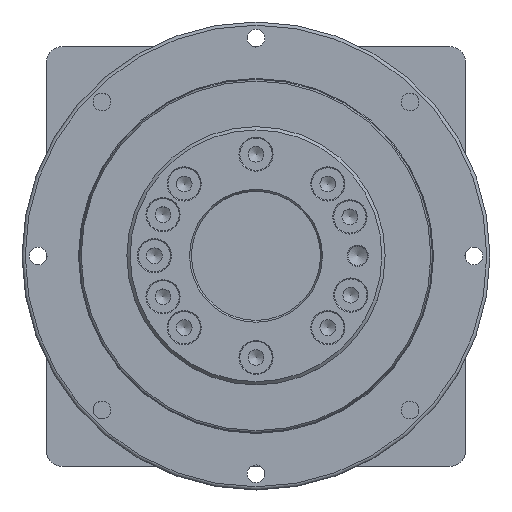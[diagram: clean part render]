
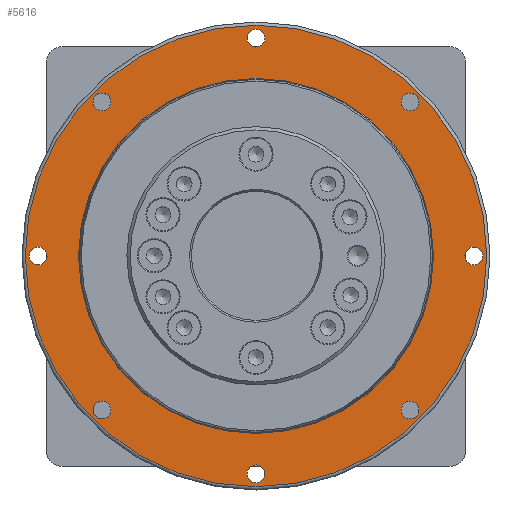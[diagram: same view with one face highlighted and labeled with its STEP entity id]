
A CAD part, top view. The second image highlights one B-rep face of the part: STEP entity #5616.
In plain terms, the highlighted planar face has unit normal (0, 0, 1).
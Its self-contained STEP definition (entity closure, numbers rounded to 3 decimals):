
#2751=CARTESIAN_POINT('',(67.5,-2.75,8.0));
#2752=VERTEX_POINT('',#2751);
#2753=CARTESIAN_POINT('',(67.5,0.,8.0));
#2754=DIRECTION('',(0.0,0.0,-1.0));
#2755=DIRECTION('',(0.0,1.0,0.0));
#2756=AXIS2_PLACEMENT_3D('',#2753,#2754,#2755);
#2757=CIRCLE('',#2756,2.75);
#2758=EDGE_CURVE('',#2752,#2752,#2757,.T.);
#2779=CARTESIAN_POINT('',(2.75,67.5,8.0));
#2780=VERTEX_POINT('',#2779);
#2781=CARTESIAN_POINT('',(0.0,67.5,8.0));
#2782=DIRECTION('',(0.0,0.0,-1.0));
#2783=DIRECTION('',(-1.0,0.0,0.0));
#2784=AXIS2_PLACEMENT_3D('',#2781,#2782,#2783);
#2785=CIRCLE('',#2784,2.75);
#2786=EDGE_CURVE('',#2780,#2780,#2785,.T.);
#2807=CARTESIAN_POINT('',(-2.75,-67.5,8.0));
#2808=VERTEX_POINT('',#2807);
#2809=CARTESIAN_POINT('',(0.,-67.5,8.0));
#2810=DIRECTION('',(0.0,0.0,-1.0));
#2811=DIRECTION('',(1.0,0.0,0.0));
#2812=AXIS2_PLACEMENT_3D('',#2809,#2810,#2811);
#2813=CIRCLE('',#2812,2.75);
#2814=EDGE_CURVE('',#2808,#2808,#2813,.T.);
#2835=CARTESIAN_POINT('',(-45.785,49.674,8.0));
#2836=VERTEX_POINT('',#2835);
#2837=CARTESIAN_POINT('',(-47.73,47.73,8.0));
#2838=DIRECTION('',(0.0,0.0,-1.0));
#2839=DIRECTION('',(-0.707,-0.707,0.0));
#2840=AXIS2_PLACEMENT_3D('',#2837,#2838,#2839);
#2841=CIRCLE('',#2840,2.75);
#2842=EDGE_CURVE('',#2836,#2836,#2841,.T.);
#2863=CARTESIAN_POINT('',(45.785,-49.674,8.0));
#2864=VERTEX_POINT('',#2863);
#2865=CARTESIAN_POINT('',(47.73,-47.73,8.0));
#2866=DIRECTION('',(0.0,0.0,-1.0));
#2867=DIRECTION('',(0.707,0.707,0.0));
#2868=AXIS2_PLACEMENT_3D('',#2865,#2866,#2867);
#2869=CIRCLE('',#2868,2.75);
#2870=EDGE_CURVE('',#2864,#2864,#2869,.T.);
#2891=CARTESIAN_POINT('',(49.674,45.785,8.0));
#2892=VERTEX_POINT('',#2891);
#2893=CARTESIAN_POINT('',(47.73,47.73,8.0));
#2894=DIRECTION('',(0.0,0.0,-1.0));
#2895=DIRECTION('',(-0.707,0.707,0.0));
#2896=AXIS2_PLACEMENT_3D('',#2893,#2894,#2895);
#2897=CIRCLE('',#2896,2.75);
#2898=EDGE_CURVE('',#2892,#2892,#2897,.T.);
#2981=CARTESIAN_POINT('',(-67.5,2.75,8.0));
#2982=VERTEX_POINT('',#2981);
#2983=CARTESIAN_POINT('',(-67.5,0.0,8.0));
#2984=DIRECTION('',(0.0,0.0,-1.0));
#2985=DIRECTION('',(0.0,-1.0,0.0));
#2986=AXIS2_PLACEMENT_3D('',#2983,#2984,#2985);
#2987=CIRCLE('',#2986,2.75);
#2988=EDGE_CURVE('',#2982,#2982,#2987,.T.);
#5550=CARTESIAN_POINT('',(71.5,0.,8.0));
#5551=VERTEX_POINT('',#5550);
#5552=CARTESIAN_POINT('',(0.0,0.0,8.0));
#5553=DIRECTION('',(0.0,0.0,-1.0));
#5554=DIRECTION('',(-1.0,0.0,0.0));
#5555=AXIS2_PLACEMENT_3D('',#5552,#5553,#5554);
#5556=CIRCLE('',#5555,71.5);
#5557=EDGE_CURVE('',#5551,#5551,#5556,.T.);
#5565=CARTESIAN_POINT('',(0.0,0.0,8.0));
#5566=DIRECTION('',(0.0,0.0,-1.0));
#5567=DIRECTION('',(-1.0,0.0,0.0));
#5568=AXIS2_PLACEMENT_3D('',#5565,#5566,#5567);
#5569=PLANE('',#5568);
#5570=ORIENTED_EDGE('',*,*,#5557,.F.);
#5571=EDGE_LOOP('',(#5570));
#5572=FACE_OUTER_BOUND('',#5571,.T.);
#5573=CARTESIAN_POINT('',(55.0,0.,8.0));
#5574=VERTEX_POINT('',#5573);
#5575=CARTESIAN_POINT('',(0.0,0.0,8.0));
#5576=DIRECTION('',(0.0,0.0,-1.0));
#5577=DIRECTION('',(-1.0,0.0,0.0));
#5578=AXIS2_PLACEMENT_3D('',#5575,#5576,#5577);
#5579=CIRCLE('',#5578,55.0);
#5580=EDGE_CURVE('',#5574,#5574,#5579,.T.);
#5581=ORIENTED_EDGE('',*,*,#5580,.T.);
#5582=EDGE_LOOP('',(#5581));
#5583=FACE_BOUND('',#5582,.T.);
#5584=ORIENTED_EDGE('',*,*,#2786,.T.);
#5585=EDGE_LOOP('',(#5584));
#5586=FACE_BOUND('',#5585,.T.);
#5587=ORIENTED_EDGE('',*,*,#2842,.T.);
#5588=EDGE_LOOP('',(#5587));
#5589=FACE_BOUND('',#5588,.T.);
#5590=ORIENTED_EDGE('',*,*,#2988,.T.);
#5591=EDGE_LOOP('',(#5590));
#5592=FACE_BOUND('',#5591,.T.);
#5593=CARTESIAN_POINT('',(-49.674,-45.785,8.0));
#5594=VERTEX_POINT('',#5593);
#5595=CARTESIAN_POINT('',(-47.73,-47.73,8.0));
#5596=DIRECTION('',(0.0,0.0,-1.0));
#5597=DIRECTION('',(0.707,-0.707,0.0));
#5598=AXIS2_PLACEMENT_3D('',#5595,#5596,#5597);
#5599=CIRCLE('',#5598,2.75);
#5600=EDGE_CURVE('',#5594,#5594,#5599,.T.);
#5601=ORIENTED_EDGE('',*,*,#5600,.T.);
#5602=EDGE_LOOP('',(#5601));
#5603=FACE_BOUND('',#5602,.T.);
#5604=ORIENTED_EDGE('',*,*,#2814,.T.);
#5605=EDGE_LOOP('',(#5604));
#5606=FACE_BOUND('',#5605,.T.);
#5607=ORIENTED_EDGE('',*,*,#2870,.T.);
#5608=EDGE_LOOP('',(#5607));
#5609=FACE_BOUND('',#5608,.T.);
#5610=ORIENTED_EDGE('',*,*,#2758,.T.);
#5611=EDGE_LOOP('',(#5610));
#5612=FACE_BOUND('',#5611,.T.);
#5613=ORIENTED_EDGE('',*,*,#2898,.T.);
#5614=EDGE_LOOP('',(#5613));
#5615=FACE_BOUND('',#5614,.T.);
#5616=ADVANCED_FACE('',(#5572,#5583,#5586,#5589,#5592,#5603,#5606,#5609,#5612,#5615),#5569,.F.);
